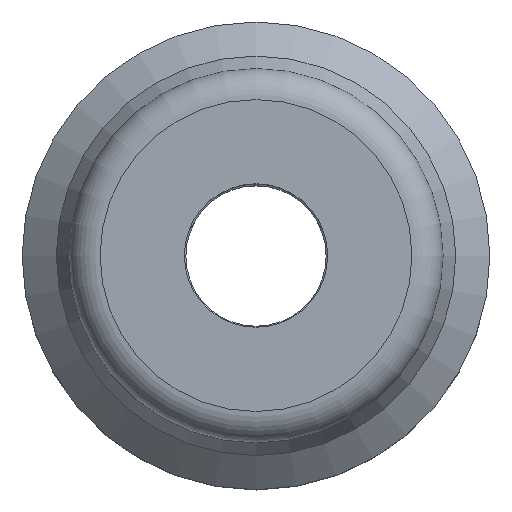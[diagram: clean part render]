
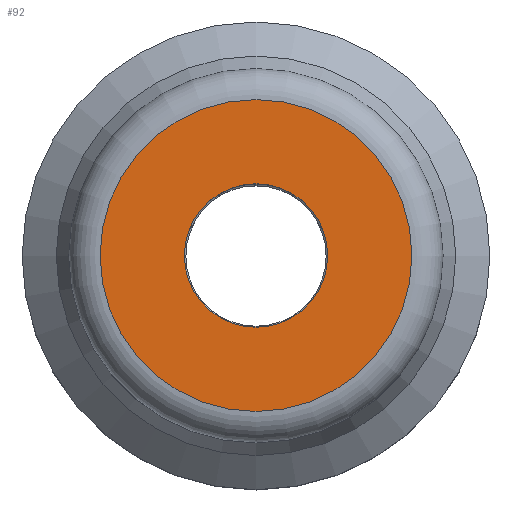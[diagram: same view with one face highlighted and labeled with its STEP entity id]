
A CAD part, top view. The second image highlights one B-rep face of the part: STEP entity #92.
In plain terms, the highlighted planar face has unit normal (0, 0, 1).
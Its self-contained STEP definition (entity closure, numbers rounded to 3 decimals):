
#92=ADVANCED_FACE('',(#146,#147),#148,.T.);
#146=FACE_BOUND('',#203,.T.);
#147=FACE_OUTER_BOUND('',#204,.T.);
#148=PLANE('',#205);
#203=EDGE_LOOP('',(#294));
#204=EDGE_LOOP('',(#295));
#205=AXIS2_PLACEMENT_3D('',#296,#297,#298);
#294=ORIENTED_EDGE('',*,*,#322,.T.);
#295=ORIENTED_EDGE('',*,*,#321,.F.);
#296=CARTESIAN_POINT('',(5.0,0.0,11.0));
#297=DIRECTION('',(0.0,0.,1.0));
#298=DIRECTION('',(0.0,-1.0,0.));
#321=EDGE_CURVE('',#357,#357,#358,.T.);
#322=EDGE_CURVE('',#359,#359,#360,.T.);
#357=VERTEX_POINT('',#395);
#358=CIRCLE('',#396,5.0);
#359=VERTEX_POINT('',#397);
#360=CIRCLE('',#398,2.3);
#395=CARTESIAN_POINT('',(5.0,0.0,11.0));
#396=AXIS2_PLACEMENT_3D('',#450,#451,#452);
#397=CARTESIAN_POINT('',(2.3,0.0,11.0));
#398=AXIS2_PLACEMENT_3D('',#453,#454,#455);
#450=CARTESIAN_POINT('',(0.0,0.0,11.0));
#451=DIRECTION('',(0.0,0.,-1.0));
#452=DIRECTION('',(0.0,1.0,0.));
#453=CARTESIAN_POINT('',(0.0,0.0,11.0));
#454=DIRECTION('',(0.0,0.,-1.0));
#455=DIRECTION('',(0.0,1.0,0.));
